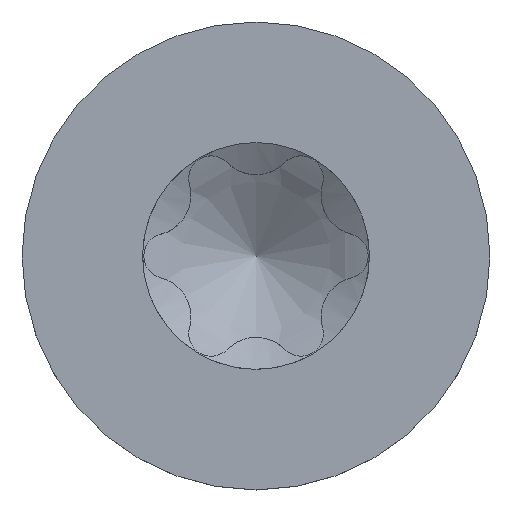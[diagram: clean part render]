
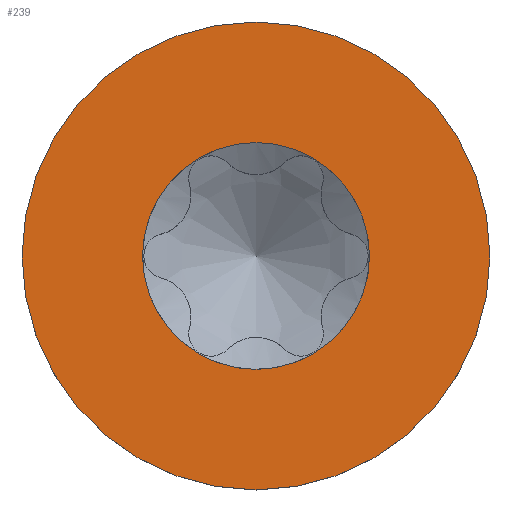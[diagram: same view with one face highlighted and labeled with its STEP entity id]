
A CAD part, top view. The second image highlights one B-rep face of the part: STEP entity #239.
In plain terms, the highlighted planar face has unit normal (0, 0, 1).
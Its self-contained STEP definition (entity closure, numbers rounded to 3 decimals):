
#211=PLANE('',#1254);
#219=FACE_BOUND('',#387,.T.);
#220=FACE_BOUND('',#388,.T.);
#239=ADVANCED_FACE('',(#219,#220),#211,.F.);
#387=EDGE_LOOP('',(#624));
#388=EDGE_LOOP('',(#625));
#624=ORIENTED_EDGE('',*,*,#1092,.F.);
#625=ORIENTED_EDGE('',*,*,#1093,.F.);
#973=VERTEX_POINT('',#2836);
#974=VERTEX_POINT('',#2838);
#1092=EDGE_CURVE('',#973,#973,#1233,.T.);
#1093=EDGE_CURVE('',#974,#974,#1234,.T.);
#1233=CIRCLE('',#1252,0.885);
#1234=CIRCLE('',#1253,1.825);
#1252=AXIS2_PLACEMENT_3D('',#2835,#1306,#1307);
#1253=AXIS2_PLACEMENT_3D('',#2837,#1308,#1309);
#1254=AXIS2_PLACEMENT_3D('',#2839,#1310,#1311);
#1306=DIRECTION('',(0.,0.,1.));
#1307=DIRECTION('',(-1.,0.,0.));
#1308=DIRECTION('',(0.,0.,-1.));
#1309=DIRECTION('',(-1.,0.,0.));
#1310=DIRECTION('',(0.,0.,-1.));
#1311=DIRECTION('',(-1.,0.,0.));
#2835=CARTESIAN_POINT('',(0.,0.,1.465));
#2836=CARTESIAN_POINT('',(-0.885,0.,1.465));
#2837=CARTESIAN_POINT('',(0.,0.,1.465));
#2838=CARTESIAN_POINT('',(-1.825,0.,1.465));
#2839=CARTESIAN_POINT('',(0.,0.,1.465));
